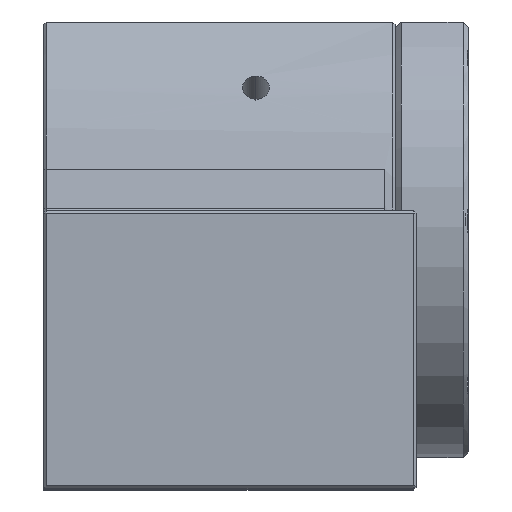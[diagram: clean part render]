
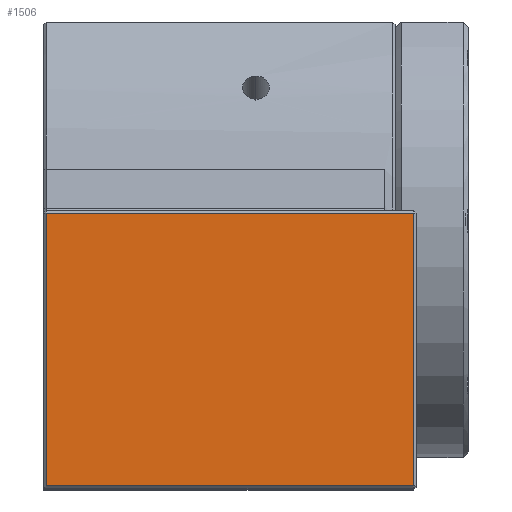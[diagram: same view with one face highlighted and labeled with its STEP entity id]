
A CAD part, top view. The second image highlights one B-rep face of the part: STEP entity #1506.
In plain terms, the highlighted planar face has unit normal (0, 0, 1).
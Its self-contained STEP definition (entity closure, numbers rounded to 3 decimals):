
#1479 = ORIENTED_EDGE ( 'NONE', *, *, #1480, .T. ) ;
#1480 = EDGE_CURVE ( 'NONE', #1508, #1481, #9216, .T. ) ;
#1481 = VERTEX_POINT ( 'NONE', #9208 ) ;
#1482 = ORIENTED_EDGE ( 'NONE', *, *, #1483, .T. ) ;
#1483 = EDGE_CURVE ( 'NONE', #1481, #1484, #9206, .T. ) ;
#1484 = VERTEX_POINT ( 'NONE', #9198 ) ;
#1485 = ORIENTED_EDGE ( 'NONE', *, *, #1486, .T. ) ;
#1486 = EDGE_CURVE ( 'NONE', #1484, #1487, #9194, .T. ) ;
#1487 = VERTEX_POINT ( 'NONE', #9187 ) ;
#1488 = ORIENTED_EDGE ( 'NONE', *, *, #1489, .T. ) ;
#1489 = EDGE_CURVE ( 'NONE', #1487, #1508, #9185, .T. ) ;
#1506 = ADVANCED_FACE ( 'NONE', ( #9255 ), #9253, .T. ) ;
#1507 = EDGE_LOOP ( 'NONE', ( #1479, #1482, #1485, #1488 ) ) ;
#1508 = VERTEX_POINT ( 'NONE', #9364 ) ;
#7723 = DIRECTION ( 'NONE',  ( 1., 0., 0. ) ) ;
#7732 = DIRECTION ( 'NONE',  ( 0., 0., 1. ) ) ;
#9182 = DIRECTION ( 'NONE',  ( 0., -1., 0. ) ) ;
#9183 = VECTOR ( 'NONE', #9182, 1000. ) ;
#9184 = CARTESIAN_POINT ( 'NONE',  ( -66.5, -51., 80. ) ) ;
#9185 = LINE ( 'NONE', #9184, #9183 ) ;
#9187 = CARTESIAN_POINT ( 'NONE',  ( -66.5, 1.5, 80. ) ) ;
#9189 = DIRECTION ( 'NONE',  ( -1., 0., 0. ) ) ;
#9191 = VECTOR ( 'NONE', #9189, 1000. ) ;
#9193 = CARTESIAN_POINT ( 'NONE',  ( -67., 1.5, 80. ) ) ;
#9194 = LINE ( 'NONE', #9193, #9191 ) ;
#9198 = CARTESIAN_POINT ( 'NONE',  ( 3.5, 1.5, 80. ) ) ;
#9201 = DIRECTION ( 'NONE',  ( 0., 1., 0. ) ) ;
#9203 = VECTOR ( 'NONE', #9201, 1000. ) ;
#9205 = CARTESIAN_POINT ( 'NONE',  ( 3.5, 0., 80. ) ) ;
#9206 = LINE ( 'NONE', #9205, #9203 ) ;
#9208 = CARTESIAN_POINT ( 'NONE',  ( 3.5, -50.5, 80. ) ) ;
#9210 = DIRECTION ( 'NONE',  ( 1., 0., 0. ) ) ;
#9212 = VECTOR ( 'NONE', #9210, 1000. ) ;
#9214 = CARTESIAN_POINT ( 'NONE',  ( 4., -50.5, 80. ) ) ;
#9216 = LINE ( 'NONE', #9214, #9212 ) ;
#9245 = CARTESIAN_POINT ( 'NONE',  ( -67., 0., 80. ) ) ;
#9246 = AXIS2_PLACEMENT_3D ( 'NONE', #9245, #7732, #7723 ) ;
#9253 = PLANE ( 'NONE',  #9246 ) ;
#9255 = FACE_OUTER_BOUND ( 'NONE', #1507, .T. ) ;
#9364 = CARTESIAN_POINT ( 'NONE',  ( -66.5, -50.5, 80. ) ) ;
